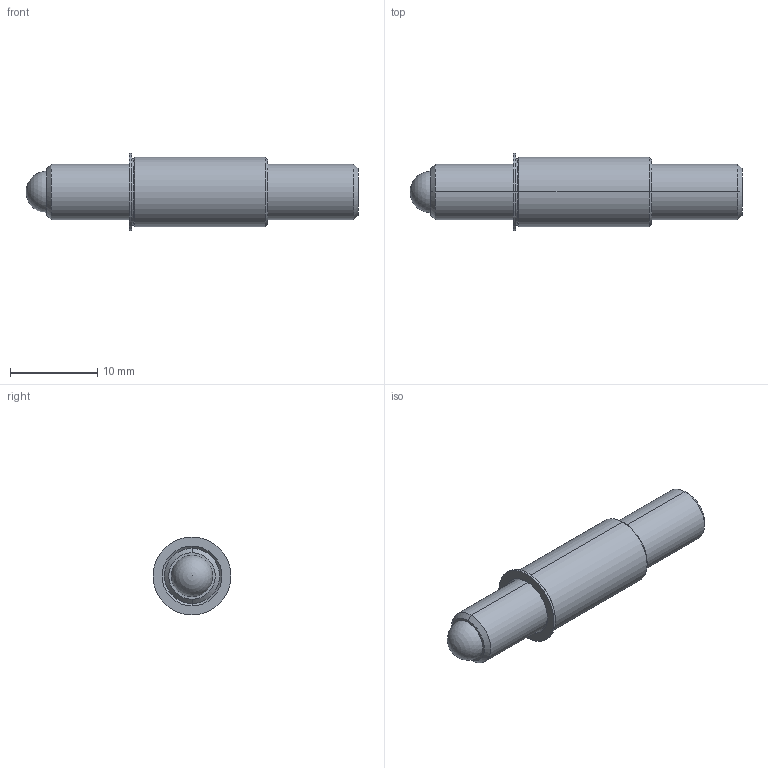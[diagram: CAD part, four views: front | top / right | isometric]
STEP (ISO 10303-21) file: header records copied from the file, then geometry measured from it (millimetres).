
FILE_DESCRIPTION (( 'STEP AP214' ), '1' );
FILE_NAME ('TSB250-80-1500_625-AA.STEP', '2013-03-14T12:52:51', ( 'workpc' ), ( 'Microsoft' ), 'SwSTEP 2.0', 'SolidWorks 2013', '' );
FILE_SCHEMA (( 'AUTOMOTIVE_DESIGN' ));
Length unit declared in the file: inch
Products named in the file (1): TSB250-80-1500_625-AA
Bounding box: 38.1 x 8.94 x 8.94 mm (x, y, z)
Surface area: 1292.7 mm2 (no closed solid volume)
Topology: 0 solids, 3 shells, 33 faces, 77 edges, 49 vertices
Faces by surface type: cone 12, plane 11, cylinder 8, sphere 2
Entity records: 1358 total; most frequent: DIRECTION 174, CARTESIAN_POINT 152, ORIENTED_EDGE 132, EDGE_CURVE 72, AXIS2_PLACEMENT_3D 68, VERTEX_POINT 46, VECTOR 38, EDGE_LOOP 38
